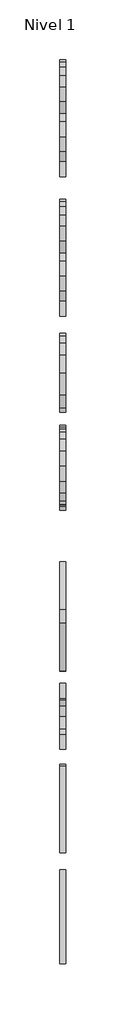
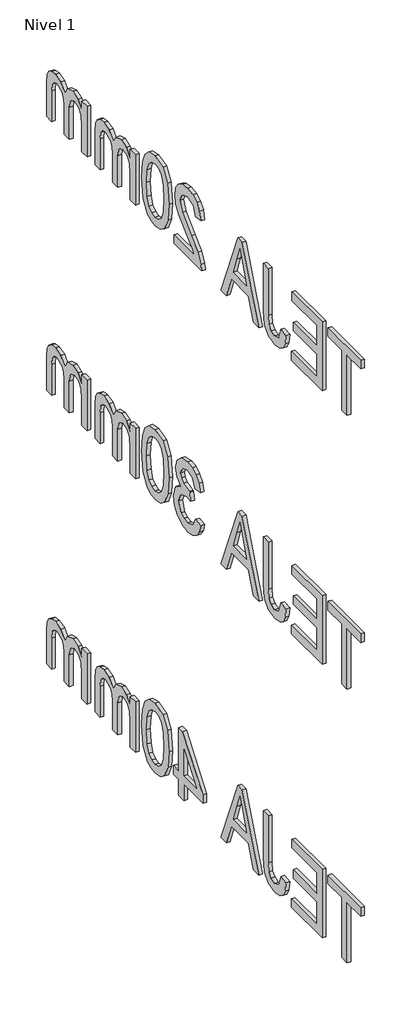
# One storey, incomplete: 3 proxies.
"""IFC4 building model written with IfcOpenShell, lengths in millimetres."""

from ifc_helpers import new_model, si_unit, frame, origin, place, context, project, spatial, polyline, outline, extrude, element, save

model = new_model("IFC4")

# Units and contexts
model_context = context("Model", 3, world=origin())
ifc_project = project(units=[si_unit("LENGTHUNIT", "METRE", prefix="MILLI")], contexts=[model_context])

# Site, building, storey
site = spatial("IfcSite", under=ifc_project)
building = spatial("IfcBuilding", under=site)
storey = spatial("IfcBuildingStorey", under=building, Name="Nivel 1", Elevation=0.0)

# Proxies
placement = place(None, origin())
element("IfcBuildingElementProxy", 1, Name="100mm Arial", ObjectType="100mm Arial", at=placement, inside=storey, context=model_context, shape_type="SweptSolid", body=[
    extrude(outline(polyline([(14461.6058109, -37.141573), (14461.6058109, 50.7576984), (14428.6435842, 50.7576984), (14428.6435842, 63.3147371), (14507.1250765, 63.3147371), (14507.1250765, 50.7576984), (14474.1628497, 50.7576984), (14474.1628497, -37.141573), (14461.6058109, -37.141573)])), frame((9557.0230098, 0.0, 0.0), z_axis=(1.0, 0.0, 0.0), x_axis=(0.0, 1.0, 0.0)), (0.0, 0.0, 1.0), 5.0),
    extrude(outline(polyline([(14521.2517451, -37.141573), (14521.2517451, 63.3147371), (14593.454718, 63.3147371), (14593.454718, 50.7576984), (14533.8087839, 50.7576984), (14533.8087839, 20.9347313), (14590.3154583, 20.9347313), (14590.3154583, 8.3776925), (14533.8087839, 8.3776925), (14533.8087839, -24.5845343), (14595.0243478, -24.5845343), (14595.0243478, -37.141573), (14521.2517451, -37.141573)])), frame((9557.0230098, 0.0, 0.0), z_axis=(1.0, 0.0, 0.0), x_axis=(0.0, 1.0, 0.0)), (0.0, 0.0, 1.0), 5.0),
    extrude(outline(polyline([(14607.5813866, -8.9372867), (14620.1384254, -7.318606), (14624.430382, -22.1565131), (14635.0253835, -26.1541641), (14643.6215594, -23.8855585), (14648.6002291, -17.705141), (14649.9613925, -5.2584668), (14649.9613925, 63.3147371), (14662.5184312, 63.3147371), (14662.5184312, -5.0377376), (14659.4895361, -24.5477461), (14649.8755533, -35.0814339), (14634.4367723, -38.7112029), (14622.8300953, -36.8380704), (14614.3013644, -31.2186729), (14609.126491, -21.9020614), (14607.5813866, -8.9372867)])), frame((9557.0230098, 0.0, 0.0), z_axis=(1.0, 0.0, 0.0), x_axis=(0.0, 1.0, 0.0)), (0.0, 0.0, 1.0), 5.0),
    extrude(outline(polyline([(14672.7946016, -37.141573), (14712.8937391, 63.3147371), (14723.5868424, 63.3147371), (14763.6859799, -37.141573), (14750.4177026, -37.141573), (14738.9152589, -5.7489761), (14697.5407972, -5.7489761), (14686.0628789, -37.141573), (14672.7946016, -37.141573)]), holes=[polyline([(14702.1515848, 6.8080627), (14734.3289967, 6.8080627), (14725.2790996, 31.5052073), (14718.2402908, 50.7576984), (14711.9862968, 33.6634483), (14702.1515848, 6.8080627)])]), frame((9557.0230098, 0.0, 0.0), z_axis=(1.0, 0.0, 0.0), x_axis=(0.0, 1.0, 0.0)), (0.0, 0.0, 1.0), 5.0),
    extrude(outline(polyline([(14875.9880903, -24.5845343), (14875.9880903, -37.141573), (14810.0636368, -37.141573), (14811.4125374, -28.4840834), (14819.0399574, -15.1544925), (14834.7607814, -0.5986282), (14856.4412936, 20.3215946), (14861.8614217, 34.5463651), (14856.747862, 46.0610715), (14843.3937455, 50.7576984), (14829.4755434, 46.1714361), (14824.1903054, 33.49177), (14811.6332666, 35.0613999), (14814.6774901, 47.2076371), (14821.2595121, 56.0797245), (14831.0359762, 61.505984), (14843.6635257, 63.3147371), (14856.3830456, 61.3036489), (14866.1411156, 55.2703842), (14872.3491242, 46.2572753), (14874.4184605, 35.3066546), (14872.186643, 23.3995406), (14864.7676894, 11.0877565), (14846.7782599, -6.1168581), (14832.3327602, -18.1956503), (14826.6673775, -24.5845343), (14875.9880903, -24.5845343)])), frame((9557.0230098, 0.0, 0.0), z_axis=(1.0, 0.0, 0.0), x_axis=(0.0, 1.0, 0.0)), (0.0, 0.0, 1.0), 5.0),
    extrude(outline(polyline([(14888.5451291, 12.2772417), (14892.2362118, 41.1805037), (14903.1990952, 57.8455581), (14921.5073558, 63.3147371), (14936.1735847, 60.0773756), (14946.3026023, 50.7454356), (14952.1887142, 35.883003), (14954.4695826, 12.2772417), (14950.8152881, -16.5033931), (14939.8891929, -33.2052357), (14931.6578332, -37.3347111), (14921.5073558, -38.7112029), (14908.4598077, -36.3199699), (14898.5515193, -29.146271), (14891.0467266, -12.1562542), (14888.5451291, 12.2772417)]), holes=[polyline([(14901.1021678, 12.3017671), (14902.5736958, -7.4504303), (14906.9882798, -18.8823633), (14913.5611047, -24.3362139), (14921.5073558, -26.1541641), (14929.4536069, -24.3300825), (14936.0264319, -18.8578379), (14940.4410159, -7.4197735), (14941.9125438, 12.3017671), (14940.4900668, 31.6094405), (14936.2226356, 43.1302783), (14929.6620734, 48.8508433), (14921.360203, 50.7576984), (14913.4997911, 49.0777039), (14907.1844835, 44.0377206), (14902.6227467, 31.7995129), (14901.1021678, 12.3017671)])]), frame((9557.0230098, 0.0, 0.0), z_axis=(1.0, 0.0, 0.0), x_axis=(0.0, 1.0, 0.0)), (0.0, 0.0, 1.0), 5.0),
    extrude(outline(polyline([(14968.5962512, -37.141573), (14968.5962512, 36.6310297), (14981.15329, 36.6310297), (14981.15329, 24.4909239), (14989.7862541, 34.4360005), (15002.0735128, 38.2006596), (15014.655077, 34.3624241), (15021.5712585, 23.6080071), (15031.3691823, 34.5524965), (15043.7422801, 38.2006596), (15053.181519, 36.6831464), (15060.1620798, 32.1306067), (15064.4754962, 24.4204132), (15065.9133017, 13.4299386), (15065.9133017, -37.141573), (15053.3562629, -37.141573), (15053.3562629, 8.034336), (15052.1913033, 18.5189728), (15047.972923, 23.6815835), (15040.7992241, 25.6436208), (15028.4506518, 20.6159002), (15024.7626348, 14.0737321), (15023.5332958, 4.5026688), (15023.5332958, -37.141573), (15010.9762571, -37.141573), (15010.9762571, 9.4322876), (15008.0699893, 21.5969189), (14998.5418456, 25.6436208), (14989.2466939, 22.9458195), (14983.0662764, 15.0486194), (14981.15329, 0.0635594), (14981.15329, -37.141573), (14968.5962512, -37.141573)])), frame((9557.0230098, 0.0, 0.0), z_axis=(1.0, 0.0, 0.0), x_axis=(0.0, 1.0, 0.0)), (0.0, 0.0, 1.0), 5.0),
    extrude(outline(polyline([(15084.7488598, -37.141573), (15084.7488598, 36.6310297), (15097.3058986, 36.6310297), (15097.3058986, 24.4909239), (15105.9388628, 34.4360005), (15118.2261214, 38.2006596), (15130.8076856, 34.3624241), (15137.7238671, 23.6080071), (15147.5217909, 34.5524965), (15159.8948887, 38.2006596), (15169.3341276, 36.6831464), (15176.3146884, 32.1306067), (15180.6281048, 24.4204132), (15182.0659103, 13.4299386), (15182.0659103, -37.141573), (15169.5088715, -37.141573), (15169.5088715, 8.034336), (15168.3439119, 18.5189728), (15164.1255317, 23.6815835), (15156.9518327, 25.6436208), (15144.6032604, 20.6159002), (15140.9152434, 14.0737321), (15139.6859044, 4.5026688), (15139.6859044, -37.141573), (15127.1288657, -37.141573), (15127.1288657, 9.4322876), (15124.2225979, 21.5969189), (15114.6944542, 25.6436208), (15105.3993025, 22.9458195), (15099.218885, 15.0486194), (15097.3058986, 0.0635594), (15097.3058986, -37.141573), (15084.7488598, -37.141573)])), frame((9557.0230098, 0.0, 0.0), z_axis=(1.0, 0.0, 0.0), x_axis=(0.0, 1.0, 0.0)), (0.0, 0.0, 1.0), 5.0),
])
element("IfcBuildingElementProxy", 2, Name="100mm Arial", ObjectType="100mm Arial", at=placement, inside=storey, context=model_context, shape_type="SweptSolid", body=[
    extrude(outline(polyline([(14461.6058109, -437.141573), (14461.6058109, -349.2423016), (14428.6435842, -349.2423016), (14428.6435842, -336.6852629), (14507.1250765, -336.6852629), (14507.1250765, -349.2423016), (14474.1628497, -349.2423016), (14474.1628497, -437.141573), (14461.6058109, -437.141573)])), frame((9557.0230098, 0.0, 0.0), z_axis=(1.0, 0.0, 0.0), x_axis=(0.0, 1.0, 0.0)), (0.0, 0.0, 1.0), 5.0),
    extrude(outline(polyline([(14521.2517451, -437.141573), (14521.2517451, -336.6852629), (14593.454718, -336.6852629), (14593.454718, -349.2423016), (14533.8087839, -349.2423016), (14533.8087839, -379.0652687), (14590.3154583, -379.0652687), (14590.3154583, -391.6223075), (14533.8087839, -391.6223075), (14533.8087839, -424.5845343), (14595.0243478, -424.5845343), (14595.0243478, -437.141573), (14521.2517451, -437.141573)])), frame((9557.0230098, 0.0, 0.0), z_axis=(1.0, 0.0, 0.0), x_axis=(0.0, 1.0, 0.0)), (0.0, 0.0, 1.0), 5.0),
    extrude(outline(polyline([(14607.5813866, -408.9372867), (14620.1384254, -407.318606), (14624.430382, -422.1565131), (14635.0253835, -426.1541641), (14643.6215594, -423.8855585), (14648.6002291, -417.705141), (14649.9613925, -405.2584668), (14649.9613925, -336.6852629), (14662.5184312, -336.6852629), (14662.5184312, -405.0377376), (14659.4895361, -424.5477461), (14649.8755533, -435.0814339), (14634.4367723, -438.7112029), (14622.8300953, -436.8380704), (14614.3013644, -431.2186729), (14609.126491, -421.9020614), (14607.5813866, -408.9372867)])), frame((9557.0230098, 0.0, 0.0), z_axis=(1.0, 0.0, 0.0), x_axis=(0.0, 1.0, 0.0)), (0.0, 0.0, 1.0), 5.0),
    extrude(outline(polyline([(14672.7946016, -437.141573), (14712.8937391, -336.6852629), (14723.5868424, -336.6852629), (14763.6859799, -437.141573), (14750.4177026, -437.141573), (14738.9152589, -405.7489761), (14697.5407972, -405.7489761), (14686.0628789, -437.141573), (14672.7946016, -437.141573)]), holes=[polyline([(14702.1515848, -393.1919373), (14734.3289967, -393.1919373), (14725.2790996, -368.4947927), (14718.2402908, -349.2423016), (14711.9862968, -366.3365517), (14702.1515848, -393.1919373)])]), frame((9557.0230098, 0.0, 0.0), z_axis=(1.0, 0.0, 0.0), x_axis=(0.0, 1.0, 0.0)), (0.0, 0.0, 1.0), 5.0),
    extrude(outline(polyline([(14811.6332666, -410.4578656), (14824.1903054, -408.8882358), (14831.1187496, -422.1074622), (14844.0804586, -426.1541641), (14852.6888973, -424.7623439), (14859.3352987, -420.5868832), (14865.0006814, -406.8035712), (14859.3843496, -393.8173367), (14845.1105282, -388.6792515), (14836.3058858, -390.0526776), (14837.7038373, -377.4956389), (14839.7149256, -377.6427917), (14853.9642215, -374.0375481), (14858.7098993, -369.4635487), (14860.2917918, -362.9520373), (14855.7055296, -353.1295881), (14843.8842549, -349.2423016), (14831.9158273, -353.1663763), (14825.7599352, -364.9386001), (14813.2028965, -363.3689703), (14816.9001105, -352.0933871), (14823.4790669, -343.6750208), (14832.479913, -338.4327024), (14843.4427965, -336.6852629), (14858.5872719, -340.1310909), (14869.1822734, -349.54887), (14872.8488306, -362.2162733), (14869.3662144, -373.7922935), (14859.0655185, -382.1064266), (14872.7507287, -390.6903398), (14877.5577201, -407.0243004), (14875.1542244, -419.2625081), (14867.9437373, -429.4896275), (14857.0605616, -436.405809), (14843.6390002, -438.7112029), (14831.4988943, -436.7430342), (14821.6151314, -430.8385282), (14814.7418695, -421.8070252), (14811.6332666, -410.4578656)])), frame((9557.0230098, 0.0, 0.0), z_axis=(1.0, 0.0, 0.0), x_axis=(0.0, 1.0, 0.0)), (0.0, 0.0, 1.0), 5.0),
    extrude(outline(polyline([(14888.5451291, -387.7227583), (14892.2362118, -358.8194963), (14903.1990952, -342.1544419), (14921.5073558, -336.6852629), (14936.1735847, -339.9226244), (14946.3026023, -349.2545644), (14952.1887142, -364.116997), (14954.4695826, -387.7227583), (14950.8152881, -416.5033931), (14939.8891929, -433.2052357), (14931.6578332, -437.3347111), (14921.5073558, -438.7112029), (14908.4598077, -436.3199699), (14898.5515193, -429.146271), (14891.0467266, -412.1562542), (14888.5451291, -387.7227583)]), holes=[polyline([(14901.1021678, -387.6982329), (14902.5736958, -407.4504303), (14906.9882798, -418.8823633), (14913.5611047, -424.3362139), (14921.5073558, -426.1541641), (14929.4536069, -424.3300825), (14936.0264319, -418.8578379), (14940.4410159, -407.4197735), (14941.9125438, -387.6982329), (14940.4900668, -368.3905595), (14936.2226356, -356.8697217), (14929.6620734, -351.1491567), (14921.360203, -349.2423016), (14913.4997911, -350.9222961), (14907.1844835, -355.9622794), (14902.6227467, -368.2004871), (14901.1021678, -387.6982329)])]), frame((9557.0230098, 0.0, 0.0), z_axis=(1.0, 0.0, 0.0), x_axis=(0.0, 1.0, 0.0)), (0.0, 0.0, 1.0), 5.0),
    extrude(outline(polyline([(14968.5962512, -437.141573), (14968.5962512, -363.3689703), (14981.15329, -363.3689703), (14981.15329, -375.5090761), (14989.7862541, -365.5639995), (15002.0735128, -361.7993404), (15014.655077, -365.6375759), (15021.5712585, -376.3919929), (15031.3691823, -365.4475035), (15043.7422801, -361.7993404), (15053.181519, -363.3168536), (15060.1620798, -367.8693933), (15064.4754962, -375.5795868), (15065.9133017, -386.5700614), (15065.9133017, -437.141573), (15053.3562629, -437.141573), (15053.3562629, -391.965664), (15052.1913033, -381.4810272), (15047.972923, -376.3184165), (15040.7992241, -374.3563792), (15028.4506518, -379.3840998), (15024.7626348, -385.9262679), (15023.5332958, -395.4973312), (15023.5332958, -437.141573), (15010.9762571, -437.141573), (15010.9762571, -390.5677124), (15008.0699893, -378.4030811), (14998.5418456, -374.3563792), (14989.2466939, -377.0541805), (14983.0662764, -384.9513806), (14981.15329, -399.9364406), (14981.15329, -437.141573), (14968.5962512, -437.141573)])), frame((9557.0230098, 0.0, 0.0), z_axis=(1.0, 0.0, 0.0), x_axis=(0.0, 1.0, 0.0)), (0.0, 0.0, 1.0), 5.0),
    extrude(outline(polyline([(15084.7488598, -437.141573), (15084.7488598, -363.3689703), (15097.3058986, -363.3689703), (15097.3058986, -375.5090761), (15105.9388628, -365.5639995), (15118.2261214, -361.7993404), (15130.8076856, -365.6375759), (15137.7238671, -376.3919929), (15147.5217909, -365.4475035), (15159.8948887, -361.7993404), (15169.3341276, -363.3168536), (15176.3146884, -367.8693933), (15180.6281048, -375.5795868), (15182.0659103, -386.5700614), (15182.0659103, -437.141573), (15169.5088715, -437.141573), (15169.5088715, -391.965664), (15168.3439119, -381.4810272), (15164.1255317, -376.3184165), (15156.9518327, -374.3563792), (15144.6032604, -379.3840998), (15140.9152434, -385.9262679), (15139.6859044, -395.4973312), (15139.6859044, -437.141573), (15127.1288657, -437.141573), (15127.1288657, -390.5677124), (15124.2225979, -378.4030811), (15114.6944542, -374.3563792), (15105.3993025, -377.0541805), (15099.218885, -384.9513806), (15097.3058986, -399.9364406), (15097.3058986, -437.141573), (15084.7488598, -437.141573)])), frame((9557.0230098, 0.0, 0.0), z_axis=(1.0, 0.0, 0.0), x_axis=(0.0, 1.0, 0.0)), (0.0, 0.0, 1.0), 5.0),
])
element("IfcBuildingElementProxy", 3, Name="100mm Arial", ObjectType="100mm Arial", at=placement, inside=storey, context=model_context, shape_type="SweptSolid", body=[
    extrude(outline(polyline([(14461.6058109, -837.141573), (14461.6058109, -749.2423016), (14428.6435842, -749.2423016), (14428.6435842, -736.6852629), (14507.1250765, -736.6852629), (14507.1250765, -749.2423016), (14474.1628497, -749.2423016), (14474.1628497, -837.141573), (14461.6058109, -837.141573)])), frame((9557.0230098, 0.0, 0.0), z_axis=(1.0, 0.0, 0.0), x_axis=(0.0, 1.0, 0.0)), (0.0, 0.0, 1.0), 5.0),
    extrude(outline(polyline([(14521.2517451, -837.141573), (14521.2517451, -736.6852629), (14593.454718, -736.6852629), (14593.454718, -749.2423016), (14533.8087839, -749.2423016), (14533.8087839, -779.0652687), (14590.3154583, -779.0652687), (14590.3154583, -791.6223075), (14533.8087839, -791.6223075), (14533.8087839, -824.5845343), (14595.0243478, -824.5845343), (14595.0243478, -837.141573), (14521.2517451, -837.141573)])), frame((9557.0230098, 0.0, 0.0), z_axis=(1.0, 0.0, 0.0), x_axis=(0.0, 1.0, 0.0)), (0.0, 0.0, 1.0), 5.0),
    extrude(outline(polyline([(14607.5813866, -808.9372867), (14620.1384254, -807.318606), (14624.430382, -822.1565131), (14635.0253835, -826.1541641), (14643.6215594, -823.8855585), (14648.6002291, -817.705141), (14649.9613925, -805.2584668), (14649.9613925, -736.6852629), (14662.5184312, -736.6852629), (14662.5184312, -805.0377376), (14659.4895361, -824.5477461), (14649.8755533, -835.0814339), (14634.4367723, -838.7112029), (14622.8300953, -836.8380704), (14614.3013644, -831.2186729), (14609.126491, -821.9020614), (14607.5813866, -808.9372867)])), frame((9557.0230098, 0.0, 0.0), z_axis=(1.0, 0.0, 0.0), x_axis=(0.0, 1.0, 0.0)), (0.0, 0.0, 1.0), 5.0),
    extrude(outline(polyline([(14672.7946016, -837.141573), (14712.8937391, -736.6852629), (14723.5868424, -736.6852629), (14763.6859799, -837.141573), (14750.4177026, -837.141573), (14738.9152589, -805.7489761), (14697.5407972, -805.7489761), (14686.0628789, -837.141573), (14672.7946016, -837.141573)]), holes=[polyline([(14702.1515848, -793.1919373), (14734.3289967, -793.1919373), (14725.2790996, -768.4947927), (14718.2402908, -749.2423016), (14711.9862968, -766.3365517), (14702.1515848, -793.1919373)])]), frame((9557.0230098, 0.0, 0.0), z_axis=(1.0, 0.0, 0.0), x_axis=(0.0, 1.0, 0.0)), (0.0, 0.0, 1.0), 5.0),
    extrude(outline(polyline([(14852.4436426, -837.141573), (14852.4436426, -813.5971253), (14806.9243771, -813.5971253), (14806.9243771, -801.0400866), (14855.5829023, -738.2548927), (14865.0006814, -738.2548927), (14865.0006814, -801.0400866), (14877.5577201, -801.0400866), (14877.5577201, -813.5971253), (14865.0006814, -813.5971253), (14865.0006814, -837.141573), (14852.4436426, -837.141573)]), holes=[polyline([(14852.4436426, -801.0400866), (14852.4436426, -762.2407988), (14822.3754209, -801.0400866), (14852.4436426, -801.0400866)])]), frame((9557.0230098, 0.0, 0.0), z_axis=(1.0, 0.0, 0.0), x_axis=(0.0, 1.0, 0.0)), (0.0, 0.0, 1.0), 5.0),
    extrude(outline(polyline([(14888.5451291, -787.7227583), (14892.2362118, -758.8194963), (14903.1990952, -742.1544419), (14921.5073558, -736.6852629), (14936.1735847, -739.9226244), (14946.3026023, -749.2545644), (14952.1887142, -764.116997), (14954.4695826, -787.7227583), (14950.8152881, -816.5033931), (14939.8891929, -833.2052357), (14931.6578332, -837.3347111), (14921.5073558, -838.7112029), (14908.4598077, -836.3199699), (14898.5515193, -829.146271), (14891.0467266, -812.1562542), (14888.5451291, -787.7227583)]), holes=[polyline([(14901.1021678, -787.6982329), (14902.5736958, -807.4504303), (14906.9882798, -818.8823633), (14913.5611047, -824.3362139), (14921.5073558, -826.1541641), (14929.4536069, -824.3300825), (14936.0264319, -818.8578379), (14940.4410159, -807.4197735), (14941.9125438, -787.6982329), (14940.4900668, -768.3905595), (14936.2226356, -756.8697217), (14929.6620734, -751.1491567), (14921.360203, -749.2423016), (14913.4997911, -750.9222961), (14907.1844835, -755.9622794), (14902.6227467, -768.2004871), (14901.1021678, -787.6982329)])]), frame((9557.0230098, 0.0, 0.0), z_axis=(1.0, 0.0, 0.0), x_axis=(0.0, 1.0, 0.0)), (0.0, 0.0, 1.0), 5.0),
    extrude(outline(polyline([(14968.5962512, -837.141573), (14968.5962512, -763.3689703), (14981.15329, -763.3689703), (14981.15329, -775.5090761), (14989.7862541, -765.5639995), (15002.0735128, -761.7993404), (15014.655077, -765.6375759), (15021.5712585, -776.3919929), (15031.3691823, -765.4475035), (15043.7422801, -761.7993404), (15053.181519, -763.3168536), (15060.1620798, -767.8693933), (15064.4754962, -775.5795868), (15065.9133017, -786.5700614), (15065.9133017, -837.141573), (15053.3562629, -837.141573), (15053.3562629, -791.965664), (15052.1913033, -781.4810272), (15047.972923, -776.3184165), (15040.7992241, -774.3563792), (15028.4506518, -779.3840998), (15024.7626348, -785.9262679), (15023.5332958, -795.4973312), (15023.5332958, -837.141573), (15010.9762571, -837.141573), (15010.9762571, -790.5677124), (15008.0699893, -778.4030811), (14998.5418456, -774.3563792), (14989.2466939, -777.0541805), (14983.0662764, -784.9513806), (14981.15329, -799.9364406), (14981.15329, -837.141573), (14968.5962512, -837.141573)])), frame((9557.0230098, 0.0, 0.0), z_axis=(1.0, 0.0, 0.0), x_axis=(0.0, 1.0, 0.0)), (0.0, 0.0, 1.0), 5.0),
    extrude(outline(polyline([(15084.7488598, -837.141573), (15084.7488598, -763.3689703), (15097.3058986, -763.3689703), (15097.3058986, -775.5090761), (15105.9388628, -765.5639995), (15118.2261214, -761.7993404), (15130.8076856, -765.6375759), (15137.7238671, -776.3919929), (15147.5217909, -765.4475035), (15159.8948887, -761.7993404), (15169.3341276, -763.3168536), (15176.3146884, -767.8693933), (15180.6281048, -775.5795868), (15182.0659103, -786.5700614), (15182.0659103, -837.141573), (15169.5088715, -837.141573), (15169.5088715, -791.965664), (15168.3439119, -781.4810272), (15164.1255317, -776.3184165), (15156.9518327, -774.3563792), (15144.6032604, -779.3840998), (15140.9152434, -785.9262679), (15139.6859044, -795.4973312), (15139.6859044, -837.141573), (15127.1288657, -837.141573), (15127.1288657, -790.5677124), (15124.2225979, -778.4030811), (15114.6944542, -774.3563792), (15105.3993025, -777.0541805), (15099.218885, -784.9513806), (15097.3058986, -799.9364406), (15097.3058986, -837.141573), (15084.7488598, -837.141573)])), frame((9557.0230098, 0.0, 0.0), z_axis=(1.0, 0.0, 0.0), x_axis=(0.0, 1.0, 0.0)), (0.0, 0.0, 1.0), 5.0),
])

save(model, "model.ifc")
